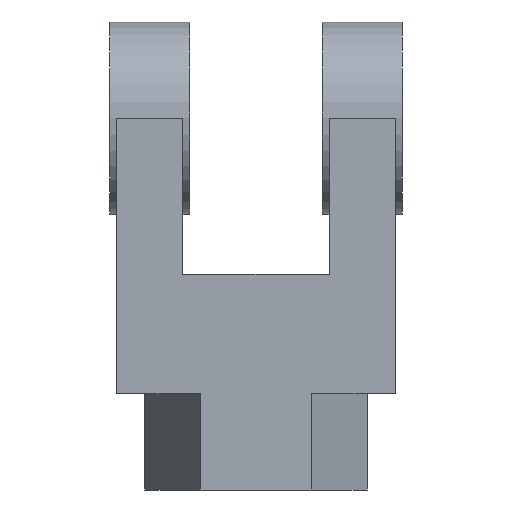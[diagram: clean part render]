
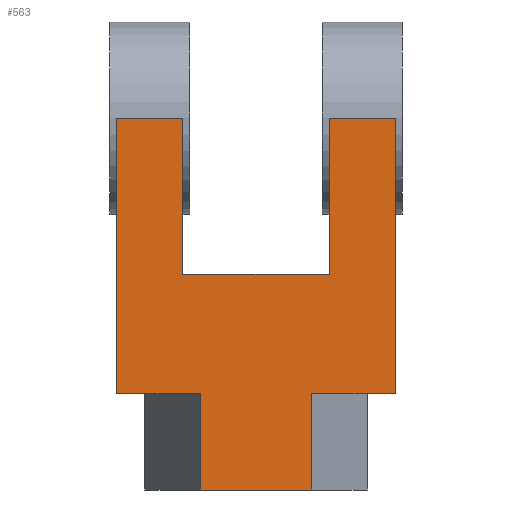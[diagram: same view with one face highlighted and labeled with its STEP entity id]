
A CAD part, left-side view. The second image highlights one B-rep face of the part: STEP entity #563.
In plain terms, the highlighted planar face has unit normal (-1, 0, 0).
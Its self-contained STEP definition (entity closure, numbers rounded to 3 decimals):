
#51=ORIENTED_EDGE('',*,*,#155,.F.);
#52=ORIENTED_EDGE('',*,*,#156,.T.);
#53=ORIENTED_EDGE('',*,*,#157,.F.);
#54=ORIENTED_EDGE('',*,*,#158,.F.);
#55=ORIENTED_EDGE('',*,*,#159,.T.);
#56=ORIENTED_EDGE('',*,*,#160,.T.);
#57=ORIENTED_EDGE('',*,*,#161,.F.);
#58=ORIENTED_EDGE('',*,*,#162,.F.);
#59=ORIENTED_EDGE('',*,*,#163,.T.);
#60=ORIENTED_EDGE('',*,*,#164,.T.);
#61=ORIENTED_EDGE('',*,*,#165,.T.);
#62=ORIENTED_EDGE('',*,*,#166,.F.);
#155=EDGE_CURVE('',#207,#208,#245,.T.);
#156=EDGE_CURVE('',#207,#209,#246,.T.);
#157=EDGE_CURVE('',#210,#209,#247,.T.);
#158=EDGE_CURVE('',#211,#210,#248,.T.);
#159=EDGE_CURVE('',#211,#212,#249,.T.);
#160=EDGE_CURVE('',#212,#213,#250,.T.);
#161=EDGE_CURVE('',#214,#213,#251,.T.);
#162=EDGE_CURVE('',#215,#214,#252,.T.);
#163=EDGE_CURVE('',#215,#216,#253,.T.);
#164=EDGE_CURVE('',#216,#217,#254,.T.);
#165=EDGE_CURVE('',#217,#218,#255,.T.);
#166=EDGE_CURVE('',#208,#218,#256,.T.);
#207=VERTEX_POINT('',#769);
#208=VERTEX_POINT('',#770);
#209=VERTEX_POINT('',#772);
#210=VERTEX_POINT('',#774);
#211=VERTEX_POINT('',#776);
#212=VERTEX_POINT('',#778);
#213=VERTEX_POINT('',#780);
#214=VERTEX_POINT('',#782);
#215=VERTEX_POINT('',#784);
#216=VERTEX_POINT('',#786);
#217=VERTEX_POINT('',#788);
#218=VERTEX_POINT('',#790);
#245=LINE('',#768,#283);
#246=LINE('',#771,#284);
#247=LINE('',#773,#285);
#248=LINE('',#775,#286);
#249=LINE('',#777,#287);
#250=LINE('',#779,#288);
#251=LINE('',#781,#289);
#252=LINE('',#783,#290);
#253=LINE('',#785,#291);
#254=LINE('',#787,#292);
#255=LINE('',#789,#293);
#256=LINE('',#791,#294);
#283=VECTOR('',#645,1000.);
#284=VECTOR('',#646,1000.);
#285=VECTOR('',#647,1000.);
#286=VECTOR('',#648,1000.);
#287=VECTOR('',#649,1000.);
#288=VECTOR('',#650,1000.);
#289=VECTOR('',#651,1000.);
#290=VECTOR('',#652,1000.);
#291=VECTOR('',#653,1000.);
#292=VECTOR('',#654,1000.);
#293=VECTOR('',#655,1000.);
#294=VECTOR('',#656,1000.);
#310=EDGE_LOOP('',(#51,#52,#53,#54,#55,#56,#57,#58,#59,#60,#61,#62));
#346=FACE_BOUND('',#310,.T.);
#382=PLANE('',#591);
#563=ADVANCED_FACE('',(#346),#382,.T.);
#591=AXIS2_PLACEMENT_3D('',#767,#643,#644);
#643=DIRECTION('',(-1.,0.,0.));
#644=DIRECTION('',(0.,0.,1.));
#645=DIRECTION('',(0.,0.,1.));
#646=DIRECTION('',(0.,1.,0.));
#647=DIRECTION('',(0.,0.,-1.));
#648=DIRECTION('',(0.,-1.,0.));
#649=DIRECTION('',(0.,0.,-1.));
#650=DIRECTION('',(0.,-1.,0.));
#651=DIRECTION('',(0.,0.,1.));
#652=DIRECTION('',(0.,1.,0.));
#653=DIRECTION('',(0.,0.,1.));
#654=DIRECTION('',(0.,-1.,0.));
#655=DIRECTION('',(0.,0.,1.));
#656=DIRECTION('',(0.,-1.,0.));
#767=CARTESIAN_POINT('',(-14.5,22.,-41.5));
#768=CARTESIAN_POINT('',(-14.5,-11.,-23.5));
#769=CARTESIAN_POINT('',(-14.5,-11.,-23.5));
#770=CARTESIAN_POINT('',(-14.5,-11.,0.));
#771=CARTESIAN_POINT('',(-14.5,22.,-23.5));
#772=CARTESIAN_POINT('',(-14.5,11.,-23.5));
#773=CARTESIAN_POINT('',(-14.5,11.,0.));
#774=CARTESIAN_POINT('',(-14.5,11.,0.));
#775=CARTESIAN_POINT('',(-14.5,22.,0.));
#776=CARTESIAN_POINT('',(-14.5,21.,0.));
#777=CARTESIAN_POINT('',(-14.5,21.,-41.5));
#778=CARTESIAN_POINT('',(-14.5,21.,-41.5));
#779=CARTESIAN_POINT('',(-14.5,22.,-41.5));
#780=CARTESIAN_POINT('',(-14.5,8.372,-41.5));
#781=CARTESIAN_POINT('',(-14.5,8.372,-56.));
#782=CARTESIAN_POINT('',(-14.5,8.372,-56.));
#783=CARTESIAN_POINT('',(-14.5,-8.372,-56.));
#784=CARTESIAN_POINT('',(-14.5,-8.372,-56.));
#785=CARTESIAN_POINT('',(-14.5,-8.372,-56.));
#786=CARTESIAN_POINT('',(-14.5,-8.372,-41.5));
#787=CARTESIAN_POINT('',(-14.5,22.,-41.5));
#788=CARTESIAN_POINT('',(-14.5,-21.,-41.5));
#789=CARTESIAN_POINT('',(-14.5,-21.,-41.5));
#790=CARTESIAN_POINT('',(-14.5,-21.,0.));
#791=CARTESIAN_POINT('',(-14.5,22.,0.));
